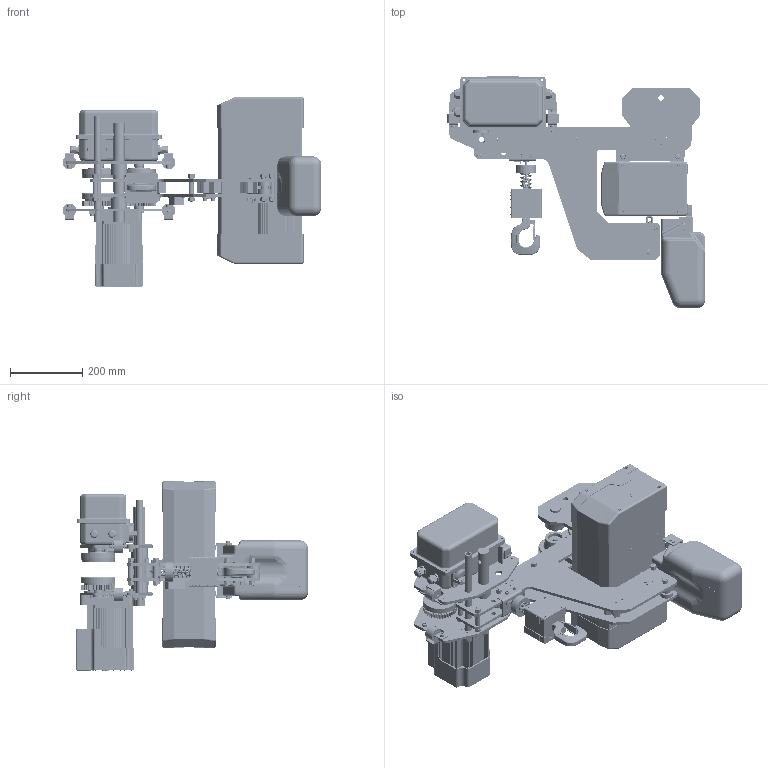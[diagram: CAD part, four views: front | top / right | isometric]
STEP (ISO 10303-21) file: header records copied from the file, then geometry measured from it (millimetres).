
FILE_DESCRIPTION(/* description */ ('CAx-IF Rec.Pracs.---Representation and Presentation of Product Manufacturing Information (PMI)---4.0---2014-10-13','CAx-IF Rec.Pracs.---3D Tessellated Geometry---0.4---2014-09-14','2;1'),/* implementation_level */ '2;1');
FILE_NAME(/* name */ 'YJ 0.5-01 超低吊',/* time_stamp */ '2026-06-03T10:18:12+08:00',/* author */ (''),/* organization */ (''),/* preprocessor_version */ 'ST-DEVELOPER v16.7',/* originating_system */ $,/* authorisation */ $);
FILE_SCHEMA (('AP242_MANAGED_MODEL_BASED_3D_ENGINEERING_MIM_LF { 1 0 10303 442 20130219 1 4 }'));
Products named in the file (1): YJ 0.5-01 超低吊
Bounding box: 717.42 x 644.52 x 525.53 mm (x, y, z)
Volume: 20704045 mm3; surface area: 3146453.7 mm2
Topology: 36 solids, 144 shells, 7269 faces, 17791 edges, 11127 vertices
Faces by surface type: plane 2846, cylinder 1999, bspline 1519, cone 513, torus 318, sphere 74
Full cylindrical faces by diameter (mm): 2 x4, 2.14 x1, 2.3 x1, 2.5 x6, 3 x1, 3.2 x4, 3.4 x8, 3.5 x3, 4 x10, 4.2 x4, 4.826 x4, 5 x16, 5.326 x2, 5.7 x4, 5.795 x16, 6 x9, 6.2 x3, 6.3 x4, 6.4 x4, 6.5 x13, 6.6 x8, 6.8 x8, 7 x8, 7.46 x2, 7.76 x12, 8.5 x4, 8.6 x2, 8.9 x8, 9 x8, 9.045 x2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
Entity records: 247785 total; most frequent: CARTESIAN_POINT 91488, ORIENTED_EDGE 33124, DIRECTION 28520, EDGE_CURVE 16562, VERTEX_POINT 10809, AXIS2_PLACEMENT_3D 10587, FACE_BOUND 8879, EDGE_LOOP 8847
